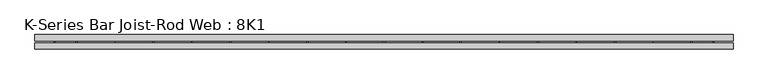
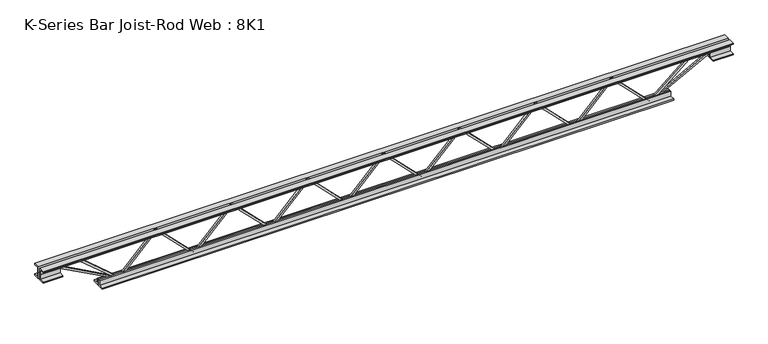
"""IFC4 building model written with IfcOpenShell, lengths in millimetres: beam geometry, K-Series Bar Joist-Rod Web : 8K1."""

from ifc_helpers import new_model, si_unit, frame, origin, place, context, project, spatial, polyline, outline, extrude, source, transform, mapped, element, save


def k_series_bar_joist_rod_web_8k1_f1b48c2f(model_context):
    return source(origin(), model_context, "Body", "SweptSolid", [
        extrude(outline(polyline([(-90.4875, 586.3869215), (-100.0125, 586.3869215), (-100.0125, 591.5448196), (90.4875, 780.6571268), (90.4875, 783.0413306), (-100.0125, 972.1536378), (-100.0125, 977.3115359), (-90.4875, 977.3115359), (-90.4875, 976.119434), (100.0125, 787.0071268), (100.0125, 776.6913306), (-90.4875, 587.5790235), (-90.4875, 586.3869215)])), frame((0.0, -4.7625, 0.0), z_axis=(0.0, 1.0, 0.0), x_axis=(0.0, 0.0, 1.0)), (0.0, 0.0, 1.0), 9.525),
        extrude(outline(polyline([(-90.4875, 195.4623072), (-100.0125, 195.4623072), (-100.0125, 200.6202052), (90.4875, 389.7325124), (90.4875, 392.1167163), (-100.0125, 581.2290235), (-100.0125, 586.3869215), (-90.4875, 586.3869215), (-90.4875, 585.1948196), (100.0125, 396.0825124), (100.0125, 385.7667163), (-90.4875, 196.6544091), (-90.4875, 195.4623072)])), frame((0.0, -4.7625, 0.0), z_axis=(0.0, 1.0, 0.0), x_axis=(0.0, 0.0, 1.0)), (0.0, 0.0, 1.0), 9.525),
        extrude(outline(polyline([(-90.4875, -195.4623072), (-100.0125, -195.4623072), (-100.0125, -190.3044091), (90.4875, -1.1921019), (90.4875, 1.1921019), (-100.0125, 190.3044091), (-100.0125, 195.4623072), (-90.4875, 195.4623072), (-90.4875, 194.2702052), (100.0125, 5.1578981), (100.0125, -5.1578981), (-90.4875, -194.2702052), (-90.4875, -195.4623072)])), frame((0.0, -4.7625, 0.0), z_axis=(0.0, 1.0, 0.0), x_axis=(0.0, 0.0, 1.0)), (0.0, 0.0, 1.0), 9.525),
        extrude(outline(polyline([(-90.4875, -586.3869215), (-100.0125, -586.3869215), (-100.0125, -581.2290235), (90.4875, -392.1167163), (90.4875, -389.7325124), (-100.0125, -200.6202052), (-100.0125, -195.4623072), (-90.4875, -195.4623072), (-90.4875, -196.6544091), (100.0125, -385.7667163), (100.0125, -396.0825124), (-90.4875, -585.1948196), (-90.4875, -586.3869215)])), frame((0.0, -4.7625, 0.0), z_axis=(0.0, 1.0, 0.0), x_axis=(0.0, 0.0, 1.0)), (0.0, 0.0, 1.0), 9.525),
        extrude(outline(polyline([(-90.4875, -977.3115359), (-100.0125, -977.3115359), (-100.0125, -972.1536378), (90.4875, -783.0413306), (90.4875, -780.6571268), (-100.0125, -591.5448196), (-100.0125, -586.3869215), (-90.4875, -586.3869215), (-90.4875, -587.5790235), (100.0125, -776.6913306), (100.0125, -787.0071268), (-90.4875, -976.119434), (-90.4875, -977.3115359)])), frame((0.0, -4.7625, 0.0), z_axis=(0.0, 1.0, 0.0), x_axis=(0.0, 0.0, 1.0)), (0.0, 0.0, 1.0), 9.525),
        extrude(outline(polyline([(-90.4875, 977.3115359), (-100.0125, 977.3115359), (-100.0125, 982.469434), (90.4875, 1171.5817411), (90.4875, 1173.965945), (-100.0125, 1363.0782522), (-100.0125, 1368.2361502), (-90.4875, 1368.2361502), (-90.4875, 1367.0440483), (100.0125, 1177.9317411), (100.0125, 1167.615945), (-90.4875, 978.5036378), (-90.4875, 977.3115359)])), frame((0.0, -4.7625, 0.0), z_axis=(0.0, 1.0, 0.0), x_axis=(0.0, 0.0, 1.0)), (0.0, 0.0, 1.0), 9.525),
        extrude(outline(polyline([(-90.4875, -1368.2361502), (-100.0125, -1368.2361502), (-100.0125, -1363.0782522), (90.4875, -1173.965945), (90.4875, -1171.5817411), (-100.0125, -982.469434), (-100.0125, -977.3115359), (-90.4875, -977.3115359), (-90.4875, -978.5036378), (100.0125, -1167.615945), (100.0125, -1177.9317411), (-90.4875, -1367.0440483), (-90.4875, -1368.2361502)])), frame((0.0, -4.7625, 0.0), z_axis=(0.0, 1.0, 0.0), x_axis=(0.0, 0.0, 1.0)), (0.0, 0.0, 1.0), 9.525),
        extrude(outline(polyline([(4.7625, 101.6), (36.5125, 101.6), (36.5125, 95.25), (11.1125, 95.25), (11.1125, 69.85), (4.7625, 69.85), (4.7625, 101.6)])), frame((-1774.6361502, 0.0, 0.0), z_axis=(1.0, 0.0, 0.0), x_axis=(0.0, 1.0, 0.0)), (0.0, 0.0, 1.0), 3549.2723005),
        extrude(outline(polyline([(-4.7625, 101.6), (-4.7625, 69.85), (-11.1125, 69.85), (-11.1125, 95.25), (-36.5125, 95.25), (-36.5125, 101.6), (-4.7625, 101.6)])), frame((-1774.6361502, 0.0, 0.0), z_axis=(1.0, 0.0, 0.0), x_axis=(0.0, 1.0, 0.0)), (0.0, 0.0, 1.0), 3549.2723005),
        extrude(outline(polyline([(-4.7625, 38.1), (-36.5125, 38.1), (-36.5125, 44.45), (-11.1125, 44.45), (-11.1125, 69.85), (-4.7625, 69.85), (-4.7625, 38.1)])), frame((-1774.6361502, 0.0, 0.0), z_axis=(1.0, 0.0, 0.0), x_axis=(0.0, 1.0, 0.0)), (0.0, 0.0, 1.0), 101.6),
        extrude(outline(polyline([(36.5125, 38.1), (4.7625, 38.1), (4.7625, 69.85), (11.1125, 69.85), (11.1125, 44.45), (36.5125, 44.45), (36.5125, 38.1)])), frame((-1774.6361502, 0.0, 0.0), z_axis=(1.0, 0.0, 0.0), x_axis=(0.0, 1.0, 0.0)), (0.0, 0.0, 1.0), 101.6),
        extrude(outline(polyline([(4.7625, 38.1), (4.7625, 69.85), (11.1125, 69.85), (11.1125, 44.45), (36.5125, 44.45), (36.5125, 38.1), (4.7625, 38.1)])), frame((1673.0361502, 0.0, 0.0), z_axis=(1.0, 0.0, 0.0), x_axis=(0.0, 1.0, 0.0)), (0.0, 0.0, 1.0), 101.6),
        extrude(outline(polyline([(-4.7625, 38.1), (-36.5125, 38.1), (-36.5125, 44.45), (-11.1125, 44.45), (-11.1125, 69.85), (-4.7625, 69.85), (-4.7625, 38.1)])), frame((1673.0361502, 0.0, 0.0), z_axis=(1.0, 0.0, 0.0), x_axis=(0.0, 1.0, 0.0)), (0.0, 0.0, 1.0), 101.6),
        extrude(outline(polyline([(4.7625, -101.6), (4.7625, -69.85), (11.1125, -69.85), (11.1125, -95.25), (36.5125, -95.25), (36.5125, -101.6), (4.7625, -101.6)])), frame((-1469.8361502, 0.0, 0.0), z_axis=(1.0, 0.0, 0.0), x_axis=(0.0, 1.0, 0.0)), (0.0, 0.0, 1.0), 2939.6723005),
        extrude(outline(polyline([(-4.7625, -101.6), (-36.5125, -101.6), (-36.5125, -95.25), (-11.1125, -95.25), (-11.1125, -69.85), (-4.7625, -69.85), (-4.7625, -101.6)])), frame((-1469.8361502, 0.0, 0.0), z_axis=(1.0, 0.0, 0.0), x_axis=(0.0, 1.0, 0.0)), (0.0, 0.0, 1.0), 2939.6723005),
        extrude(outline(polyline([(0.0, -9.525), (0.0, 0.0), (346.6425392, 0.0), (346.6425392, -9.525), (0.0, -9.525)])), frame((-1675.3044487, 4.7625, 65.662372), z_axis=(0.47628314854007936, 0.0, 0.8792919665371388), x_axis=(0.8792919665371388, 0.0, -0.47628314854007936)), (0.0, 0.0, 1.0), 9.525),
        extrude(outline(polyline([(0.0, -9.525), (0.0, 0.0), (255.8584052, 0.0), (255.8584052, -9.525), (0.0, -9.525)])), frame((-1566.7715976, 4.7625, 66.2117016), z_axis=(0.6452787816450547, 0.0, 0.7639471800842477), x_axis=(0.7639471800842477, 0.0, -0.6452787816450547)), (0.0, 0.0, 1.0), 9.525),
        extrude(outline(polyline([(0.0, -9.525), (0.0, 0.0), (346.6425392, 0.0), (346.6425392, -9.525), (0.0, -9.525)])), frame((1675.3044487, -4.7625, 65.662372), z_axis=(-0.4762831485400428, 0.0, 0.8792919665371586), x_axis=(-0.8792919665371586, 0.0, -0.4762831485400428)), (0.0, 0.0, 1.0), 9.525),
        extrude(outline(polyline([(0.0, -9.525), (0.0, 0.0), (255.8584052, 0.0), (255.8584052, -9.525), (0.0, -9.525)])), frame((1566.7715976, -4.7625, 66.2117016), z_axis=(-0.6452787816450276, 0.0, 0.7639471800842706), x_axis=(-0.7639471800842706, 0.0, -0.6452787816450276)), (0.0, 0.0, 1.0), 9.525),
    ])


if __name__ == "__main__":
    model = new_model("IFC4")
    model_context = context("Model", 3, world=origin())
    ifc_project = project(units=[si_unit("LENGTHUNIT", "METRE", prefix="MILLI")], contexts=[model_context])
    site = spatial("IfcSite", under=ifc_project)
    building = spatial("IfcBuilding", under=site)
    placement = place(None, origin())
    k_series_bar_joist_rod_web_8k1_shape = k_series_bar_joist_rod_web_8k1_f1b48c2f(model_context)
    element("IfcBeam", 1, ObjectType="K-Series Bar Joist-Rod Web : 8K1", at=placement, inside=building, context=model_context, shape_type="MappedRepresentation", body=[
        mapped(k_series_bar_joist_rod_web_8k1_shape, transform((0.0, 0.0, 0.0), x_axis=(1.0, 0.0, 0.0), y_axis=(0.0, 1.0, 0.0), z_axis=(0.0, 0.0, 1.0))),
    ])
    save(model, "model.ifc")
